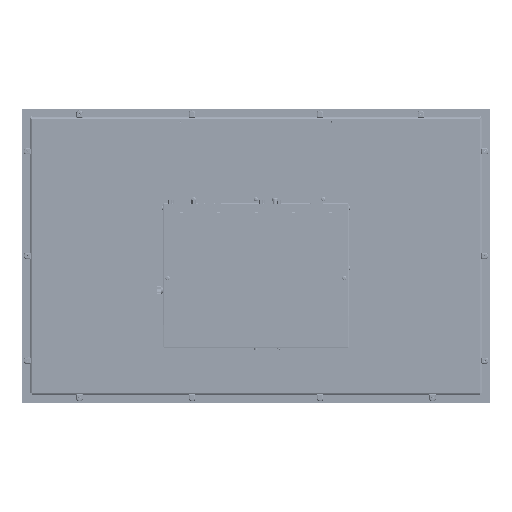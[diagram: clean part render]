
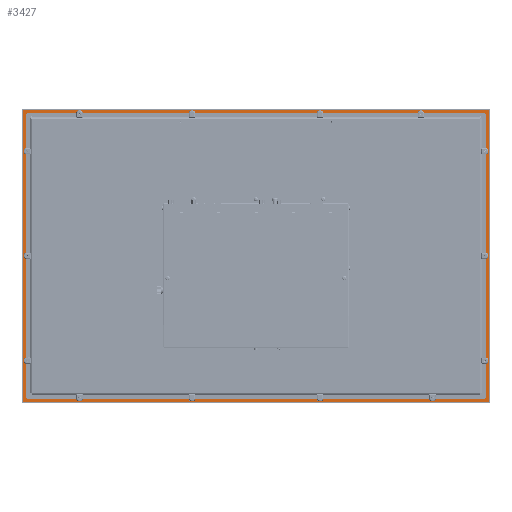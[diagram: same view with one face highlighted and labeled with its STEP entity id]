
A CAD part, front view. The second image highlights one B-rep face of the part: STEP entity #3427.
In plain terms, the highlighted planar face has unit normal (0, -1, 0).
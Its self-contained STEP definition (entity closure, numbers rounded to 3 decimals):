
#1990=CARTESIAN_POINT('',(316.75,0.5,-205.5));
#1991=DIRECTION('',(0.,1.,0.));
#1992=DIRECTION('',(1.,0.,0.));
#1993=AXIS2_PLACEMENT_3D('',#1990,#1991,#1992);
#1995=DIRECTION('',(-1.,0.,0.));
#1996=VECTOR('',#1995,633.5);
#1997=CARTESIAN_POINT('',(316.75,0.5,-207.5));
#1998=LINE('',#1997,#1996);
#1999=CARTESIAN_POINT('',(-316.75,0.5,-205.5));
#2000=DIRECTION('',(0.,1.,0.));
#2001=DIRECTION('',(0.,0.,-1.));
#2002=AXIS2_PLACEMENT_3D('',#1999,#2000,#2001);
#2004=DIRECTION('',(0.,0.,1.));
#2005=VECTOR('',#2004,396.);
#2006=CARTESIAN_POINT('',(-318.75,0.5,-205.5));
#2007=LINE('',#2006,#2005);
#2008=CARTESIAN_POINT('',(-316.75,0.5,190.5));
#2009=DIRECTION('',(0.,1.,0.));
#2010=DIRECTION('',(-1.,0.,0.));
#2011=AXIS2_PLACEMENT_3D('',#2008,#2009,#2010);
#2013=DIRECTION('',(1.,0.,0.));
#2014=VECTOR('',#2013,633.5);
#2015=CARTESIAN_POINT('',(-316.75,0.5,192.5));
#2016=LINE('',#2015,#2014);
#2017=CARTESIAN_POINT('',(316.75,0.5,190.5));
#2018=DIRECTION('',(0.,1.,0.));
#2019=DIRECTION('',(0.,0.,1.));
#2020=AXIS2_PLACEMENT_3D('',#2017,#2018,#2019);
#2022=DIRECTION('',(0.,0.,-1.));
#2023=VECTOR('',#2022,396.);
#2024=CARTESIAN_POINT('',(318.75,0.5,190.5));
#2025=LINE('',#2024,#2023);
#2026=CARTESIAN_POINT('',(312.75,0.5,-201.5));
#2027=DIRECTION('',(0.,-1.,0.));
#2028=DIRECTION('',(0.,0.,-1.));
#2029=AXIS2_PLACEMENT_3D('',#2026,#2027,#2028);
#2031=DIRECTION('',(0.,0.,1.));
#2032=VECTOR('',#2031,388.);
#2033=CARTESIAN_POINT('',(313.75,0.5,-201.5));
#2034=LINE('',#2033,#2032);
#2035=CARTESIAN_POINT('',(312.75,0.5,186.5));
#2036=DIRECTION('',(0.,-1.,0.));
#2037=DIRECTION('',(1.,0.,0.));
#2038=AXIS2_PLACEMENT_3D('',#2035,#2036,#2037);
#2040=DIRECTION('',(-1.,0.,0.));
#2041=VECTOR('',#2040,625.5);
#2042=CARTESIAN_POINT('',(312.75,0.5,187.5));
#2043=LINE('',#2042,#2041);
#2044=CARTESIAN_POINT('',(-312.75,0.5,186.5));
#2045=DIRECTION('',(0.,-1.,0.));
#2046=DIRECTION('',(0.,0.,1.));
#2047=AXIS2_PLACEMENT_3D('',#2044,#2045,#2046);
#2049=DIRECTION('',(0.,0.,-1.));
#2050=VECTOR('',#2049,388.);
#2051=CARTESIAN_POINT('',(-313.75,0.5,186.5));
#2052=LINE('',#2051,#2050);
#2053=CARTESIAN_POINT('',(-312.75,0.5,-201.5));
#2054=DIRECTION('',(0.,-1.,0.));
#2055=DIRECTION('',(-1.,0.,0.));
#2056=AXIS2_PLACEMENT_3D('',#2053,#2054,#2055);
#2058=DIRECTION('',(1.,0.,0.));
#2059=VECTOR('',#2058,625.5);
#2060=CARTESIAN_POINT('',(-312.75,0.5,-202.5));
#2061=LINE('',#2060,#2059);
#2788=CARTESIAN_POINT('',(318.75,0.5,-205.5));
#2789=CARTESIAN_POINT('',(316.75,0.5,-207.5));
#2790=VERTEX_POINT('',#2788);
#2791=VERTEX_POINT('',#2789);
#2792=CARTESIAN_POINT('',(318.75,0.5,190.5));
#2793=VERTEX_POINT('',#2792);
#2794=CARTESIAN_POINT('',(316.75,0.5,192.5));
#2795=VERTEX_POINT('',#2794);
#2796=CARTESIAN_POINT('',(-316.75,0.5,192.5));
#2797=VERTEX_POINT('',#2796);
#2798=CARTESIAN_POINT('',(-318.75,0.5,190.5));
#2799=VERTEX_POINT('',#2798);
#2800=CARTESIAN_POINT('',(-318.75,0.5,-205.5));
#2801=VERTEX_POINT('',#2800);
#2802=CARTESIAN_POINT('',(-316.75,0.5,-207.5));
#2803=VERTEX_POINT('',#2802);
#2836=CARTESIAN_POINT('',(312.75,0.5,-202.5));
#2837=CARTESIAN_POINT('',(313.75,0.5,-201.5));
#2838=VERTEX_POINT('',#2836);
#2839=VERTEX_POINT('',#2837);
#2840=CARTESIAN_POINT('',(313.75,0.5,186.5));
#2841=VERTEX_POINT('',#2840);
#2842=CARTESIAN_POINT('',(312.75,0.5,187.5));
#2843=VERTEX_POINT('',#2842);
#2844=CARTESIAN_POINT('',(-312.75,0.5,187.5));
#2845=VERTEX_POINT('',#2844);
#2846=CARTESIAN_POINT('',(-313.75,0.5,186.5));
#2847=VERTEX_POINT('',#2846);
#2848=CARTESIAN_POINT('',(-313.75,0.5,-201.5));
#2849=VERTEX_POINT('',#2848);
#2850=CARTESIAN_POINT('',(-312.75,0.5,-202.5));
#2851=VERTEX_POINT('',#2850);
#3386=CARTESIAN_POINT('',(0.,0.5,0.));
#3387=DIRECTION('',(0.,-1.,0.));
#3388=DIRECTION('',(-1.,0.,0.));
#3389=AXIS2_PLACEMENT_3D('',#3386,#3387,#3388);
#3390=PLANE('',#3389);
#3392=ORIENTED_EDGE('',*,*,#3391,.T.);
#3394=ORIENTED_EDGE('',*,*,#3393,.T.);
#3396=ORIENTED_EDGE('',*,*,#3395,.T.);
#3398=ORIENTED_EDGE('',*,*,#3397,.T.);
#3400=ORIENTED_EDGE('',*,*,#3399,.T.);
#3402=ORIENTED_EDGE('',*,*,#3401,.T.);
#3404=ORIENTED_EDGE('',*,*,#3403,.T.);
#3406=ORIENTED_EDGE('',*,*,#3405,.T.);
#3407=EDGE_LOOP('',(#3392,#3394,#3396,#3398,#3400,#3402,#3404,#3406));
#3408=FACE_OUTER_BOUND('',#3407,.F.);
#3410=ORIENTED_EDGE('',*,*,#3409,.T.);
#3412=ORIENTED_EDGE('',*,*,#3411,.T.);
#3414=ORIENTED_EDGE('',*,*,#3413,.T.);
#3416=ORIENTED_EDGE('',*,*,#3415,.T.);
#3418=ORIENTED_EDGE('',*,*,#3417,.T.);
#3420=ORIENTED_EDGE('',*,*,#3419,.T.);
#3422=ORIENTED_EDGE('',*,*,#3421,.T.);
#3424=ORIENTED_EDGE('',*,*,#3423,.T.);
#3425=EDGE_LOOP('',(#3410,#3412,#3414,#3416,#3418,#3420,#3422,#3424));
#3426=FACE_BOUND('',#3425,.F.);
#1994=CIRCLE('',#1993,2.);
#2003=CIRCLE('',#2002,2.);
#2012=CIRCLE('',#2011,2.);
#2021=CIRCLE('',#2020,2.);
#2030=CIRCLE('',#2029,1.);
#2039=CIRCLE('',#2038,1.);
#2048=CIRCLE('',#2047,1.);
#2057=CIRCLE('',#2056,1.);
#3391=EDGE_CURVE('',#2790,#2791,#1994,.T.);
#3393=EDGE_CURVE('',#2791,#2803,#1998,.T.);
#3395=EDGE_CURVE('',#2803,#2801,#2003,.T.);
#3397=EDGE_CURVE('',#2801,#2799,#2007,.T.);
#3399=EDGE_CURVE('',#2799,#2797,#2012,.T.);
#3401=EDGE_CURVE('',#2797,#2795,#2016,.T.);
#3403=EDGE_CURVE('',#2795,#2793,#2021,.T.);
#3405=EDGE_CURVE('',#2793,#2790,#2025,.T.);
#3409=EDGE_CURVE('',#2838,#2839,#2030,.T.);
#3411=EDGE_CURVE('',#2839,#2841,#2034,.T.);
#3413=EDGE_CURVE('',#2841,#2843,#2039,.T.);
#3415=EDGE_CURVE('',#2843,#2845,#2043,.T.);
#3417=EDGE_CURVE('',#2845,#2847,#2048,.T.);
#3419=EDGE_CURVE('',#2847,#2849,#2052,.T.);
#3421=EDGE_CURVE('',#2849,#2851,#2057,.T.);
#3423=EDGE_CURVE('',#2851,#2838,#2061,.T.);
#3427=ADVANCED_FACE('',(#3408,#3426),#3390,.T.);
